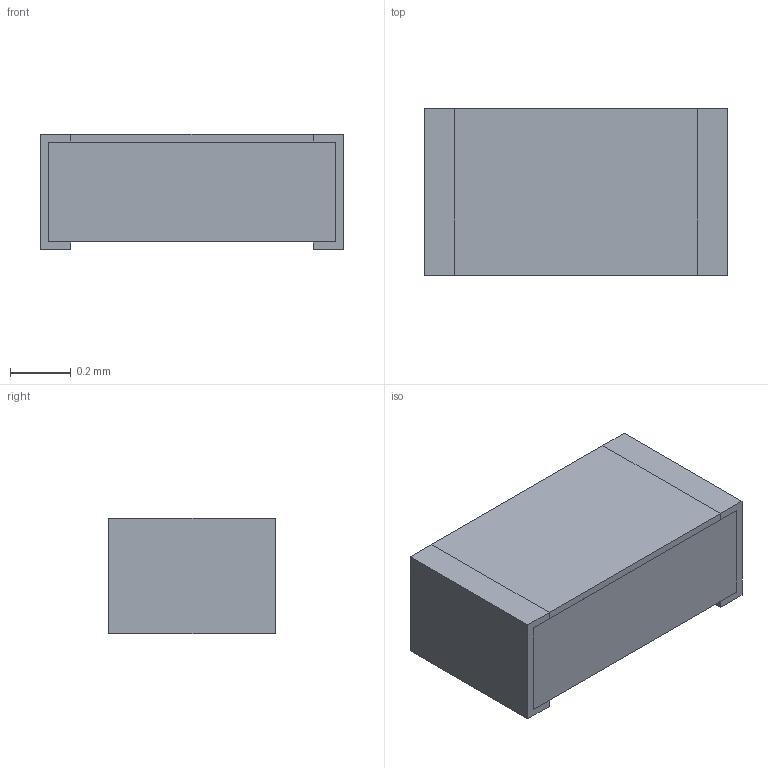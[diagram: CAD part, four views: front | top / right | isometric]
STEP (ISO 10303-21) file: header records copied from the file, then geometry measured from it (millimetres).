
FILE_DESCRIPTION(('STEP AP203'), '1');
FILE_NAME('栖闉罻', '', ('UNSPECIFIED'), ('UNSPECIFIED'), 'ASCON STEP Converter 1.6', 'ASCON Math Kernel', '');
FILE_SCHEMA(('CONFIG_CONTROL_DESIGN'));
Length unit declared in the file: millimetre
Assembly tree (1 placements, depth 2):
  (unnamed)
    (unnamed)
Bounding box: 1 x 0.55 x 0.38 mm (x, y, z)
Volume: 0.2 mm3; surface area: 4.4 mm2
Topology: 4 solids, 5 shells, 51 faces, 123 edges, 82 vertices
Faces by surface type: plane 47, cylinder 4
Entity records: 1987 total; most frequent: CARTESIAN_POINT 258, ORIENTED_EDGE 246, DIRECTION 237, EDGE_CURVE 123, LINE 115, VECTOR 115, VERTEX_POINT 82, AXIS2_PLACEMENT_3D 61
